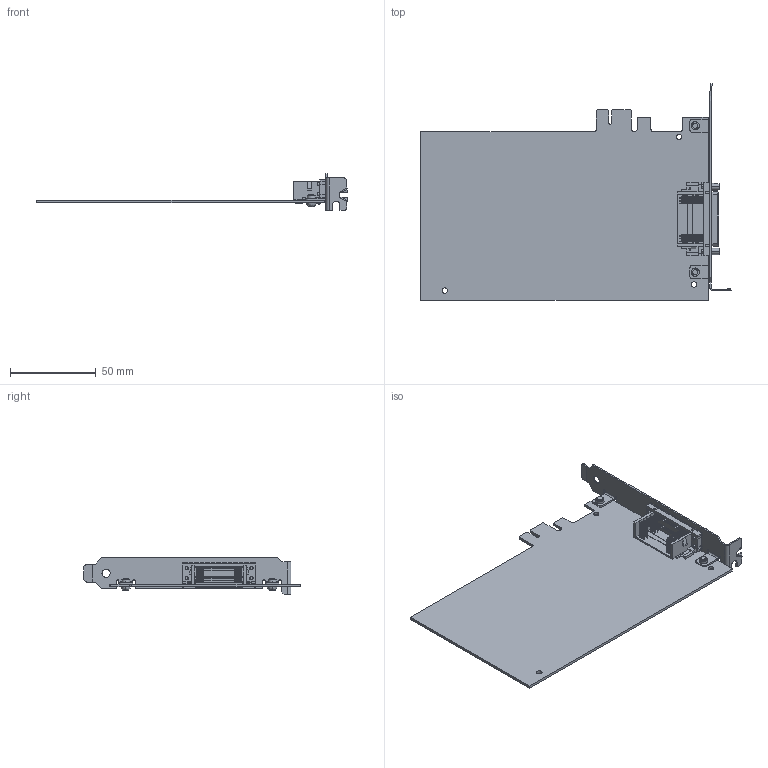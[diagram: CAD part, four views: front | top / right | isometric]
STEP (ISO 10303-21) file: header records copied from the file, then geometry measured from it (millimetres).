
FILE_DESCRIPTION((''),'2;1');
FILE_NAME('CU_PCIE-843X_8_16_ASM','2012-03-26T',('talbott'),(''),'PRO/ENGINEER BY PARAMETRIC TECHNOLOGY CORPORATION, 2010230','PRO/ENGINEER BY PARAMETRIC TECHNOLOGY CORPORATION, 2010230','');
FILE_SCHEMA(('CONFIG_CONTROL_DESIGN'));
Products named in the file (3): CU_PCIE_843X_8_16; SCREWLOCK_BOARDMOUNT_NYL_PATCH; CU_PCIE-843X_8_16_ASM
Assembly tree (5 placements, depth 2):
  CU_PCIE-843X_8_16_ASM
    CU_PCIE_843X_8_16
    SCREWLOCK_BOARDMOUNT_NYL_PATCH  x4
Bounding box: 181.05 x 126.32 x 21.59 mm (x, y, z)
Volume: 31951.3 mm3; surface area: 45801.7 mm2
Topology: 5 solids, 9 shells, 2743 faces, 7782 edges, 5019 vertices
Faces by surface type: plane 2295, cylinder 380, cone 24, bspline 16, sphere 16, torus 12
Entity records: 87242 total; most frequent: CARTESIAN_POINT 16181, ORIENTED_EDGE 15272, DIRECTION 13758, EDGE_CURVE 7636, VECTOR 6766, LINE 6766, VERTEX_POINT 4967, AXIS2_PLACEMENT_3D 3496
